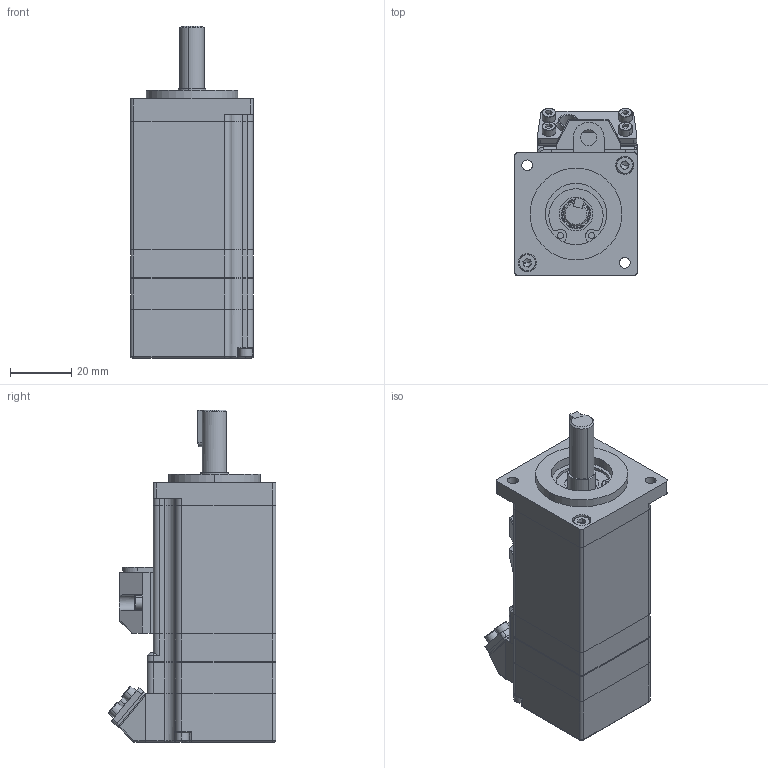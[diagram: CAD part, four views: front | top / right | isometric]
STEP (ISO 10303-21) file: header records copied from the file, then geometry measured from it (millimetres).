
FILE_DESCRIPTION (( 'STEP AP203' ), '1' );
FILE_NAME ('SMH40-530210ENL-X軞蚾 -源倛綴裔.STEP', '2020-03-19T05:44:49', ( 'user' ), ( '' ), 'SwSTEP 2.0', 'SolidWorks 2016', '' );
FILE_SCHEMA (( 'CONFIG_CONTROL_DESIGN' ));
Length unit declared in the file: millimetre
Products named in the file (1): SMH40-530210ENL-X軞蚾 -源倛綴裔
Bounding box: 40 x 54.65 x 108.4 mm (x, y, z)
Volume: 64086.7 mm3; surface area: 50623.8 mm2
Topology: 25 solids, 25 shells, 1019 faces, 2801 edges, 1785 vertices
Faces by surface type: cylinder 427, plane 388, torus 106, cone 53, sphere 43, bspline 2
Entity records: 33025 total; most frequent: CARTESIAN_POINT 7025, DIRECTION 5648, ORIENTED_EDGE 5362, EDGE_CURVE 2681, AXIS2_PLACEMENT_3D 2222, VERTEX_POINT 1723, VECTOR 1204, CIRCLE 1204
